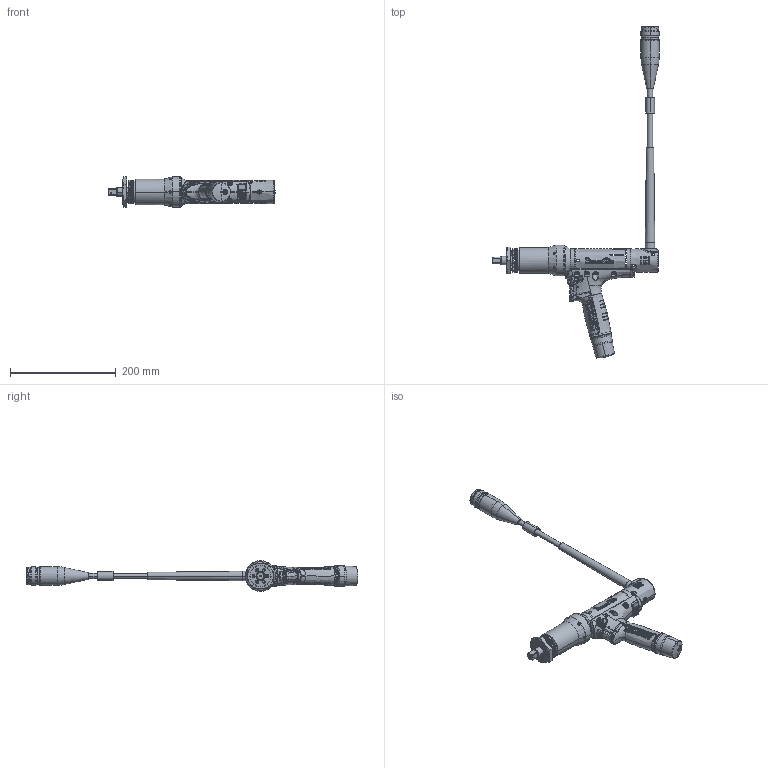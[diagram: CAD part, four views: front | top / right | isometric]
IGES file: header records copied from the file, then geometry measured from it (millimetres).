
Start section:  PTC IGES file: 6151663100_dim.igs
Global section: file name: 6151663100_dim.igs; native system: Creo Parametric by PTC Inc.; preprocessor: 2022414; author: S00000450; organization: Unknown; date: 20230824.083121; units: millimetre
Bounding box: 315.62 x 628.62 x 58 mm (x, y, z)
Surface area: 116642.2 mm2 (no closed solid volume)
Topology: 0 solids, 0 shells, 1393 faces, 9849 edges, 9842 vertices
Faces by surface type: bspline 885, revolution 460, extrusion 48
